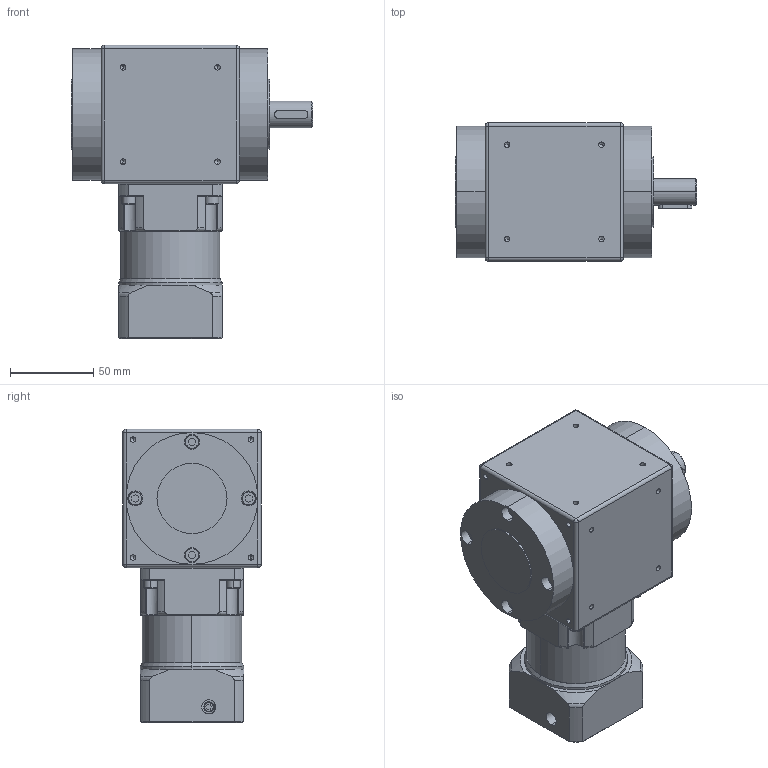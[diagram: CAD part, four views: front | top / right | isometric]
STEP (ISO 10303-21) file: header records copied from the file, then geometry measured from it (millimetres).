
FILE_DESCRIPTION (( 'STEP AP214' ), '1' );
FILE_NAME ('GBPHR-0601-SS.STEP', '2015-07-07T17:55:46', ( '' ), ( '' ), 'SwSTEP 2.0', 'SolidWorks 2015', '' );
FILE_SCHEMA (( 'AUTOMOTIVE_DESIGN' ));
Length unit declared in the file: millimetre
Products named in the file (4): 1_B18.3.1M - 5 x 0.8 x 16 Hex SHCS -- 16SHX; GBPHR-060X-SS Series_GBPH-0601-NS; GBPHR-060X-SX_GBPHR-060X-SX; GBPHR-0601-SS
Assembly tree (6 placements, depth 2):
  GBPHR-0601-SS
    GBPHR-060X-SX_GBPHR-060X-SX
    GBPHR-060X-SS Series_GBPH-0601-NS
    1_B18.3.1M - 5 x 0.8 x 16 Hex SHCS -- 16SHX  x4
Bounding box: 145 x 83 x 176 mm (x, y, z)
Volume: 1046338.6 mm3; surface area: 103328.8 mm2
Topology: 6 solids, 6 shells, 1059 faces, 2631 edges, 1595 vertices
Faces by surface type: cone 452, cylinder 342, plane 237, torus 20, sphere 8
Entity records: 23404 total; most frequent: CARTESIAN_POINT 3977, DIRECTION 3319, ORIENTED_EDGE 2970, EDGE_CURVE 1485, AXIS2_PLACEMENT_3D 1290, VERTEX_POINT 926, VECTOR 739, LINE 739
